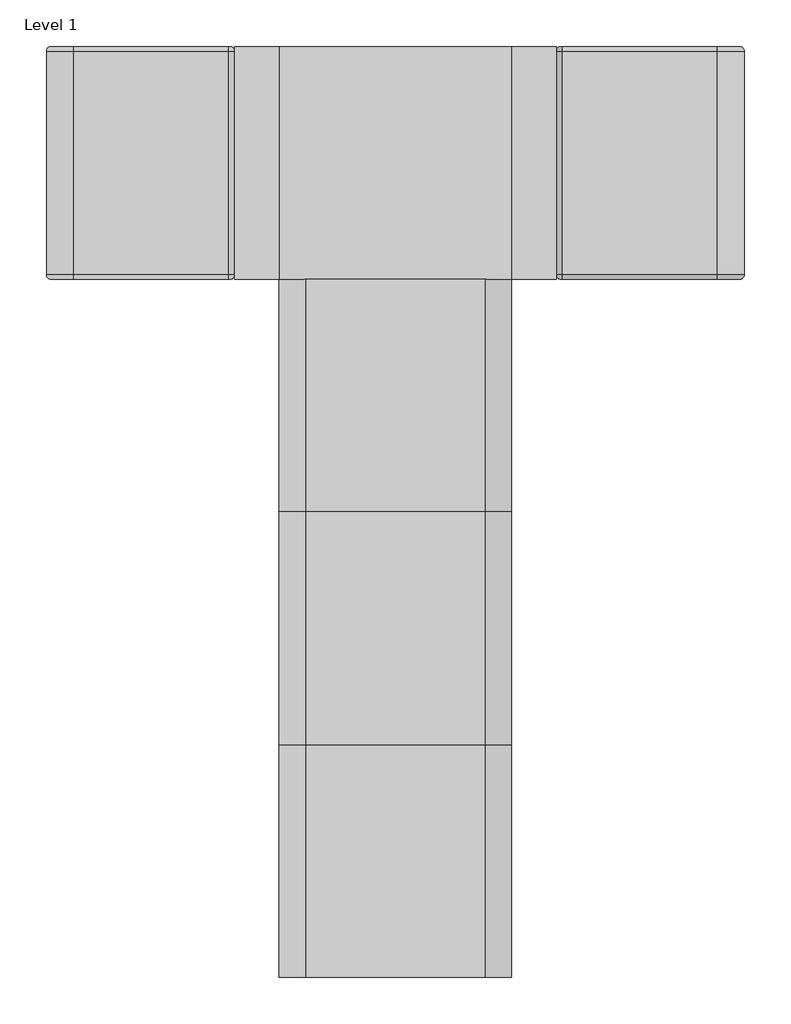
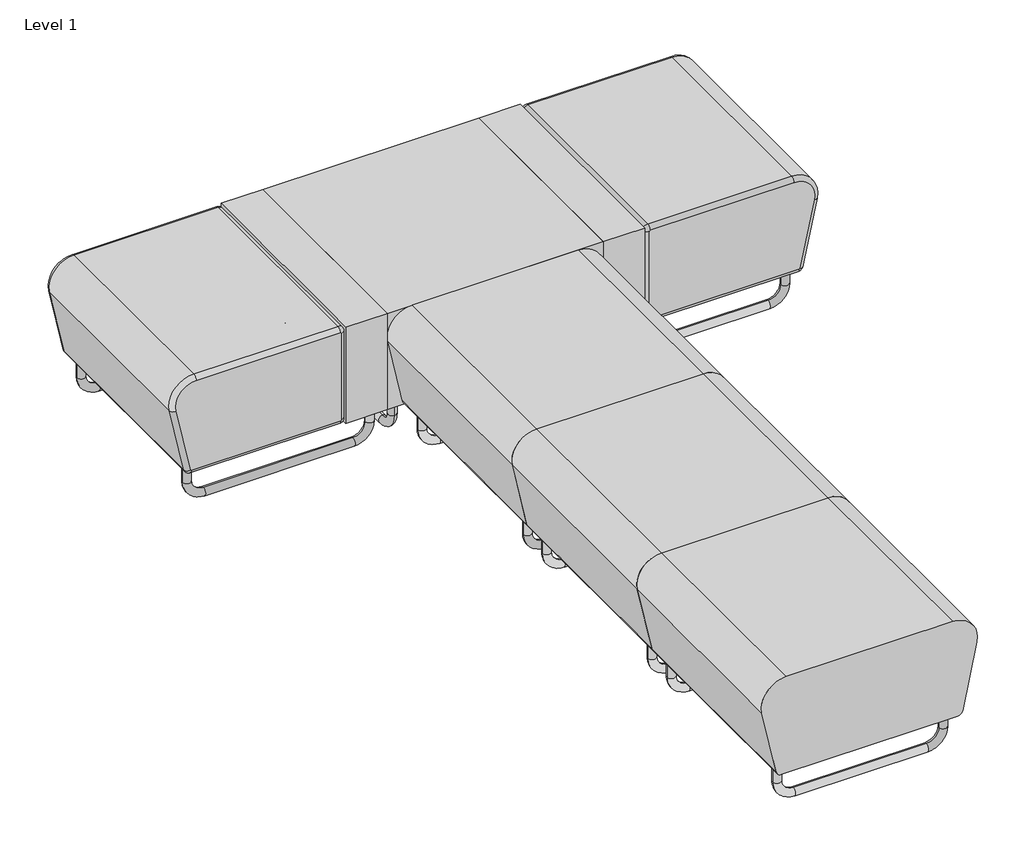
# One storey: 6 furniture elements.
"""IFC4 building model written with IfcOpenShell, lengths in millimetres."""

from ifc_helpers import new_model, si_unit, origin, place, context, project, spatial, transform, mapped, element, save
from components import lounge_seat_ki_hub_917b826c, lounge_seat_ki_hub_ottoman_ottoman_fce9da11, lounge_table_ki_hub_no_power_aac6d2b9

model = new_model("IFC4")

# Units and contexts
model_context = context("Model", 3, world=origin())
ifc_project = project(units=[si_unit("LENGTHUNIT", "METRE", prefix="MILLI")], contexts=[model_context])

# Site, building, storey
site = spatial("IfcSite", under=ifc_project)
building = spatial("IfcBuilding", under=site)
storey = spatial("IfcBuildingStorey", under=building, Name="Level 1", Elevation=0.0)

# Furniture
placement = place(None, origin())
lounge_seat_ki_hub_shape = lounge_seat_ki_hub_917b826c(model_context)
element("IfcFurniture", 1, ObjectType="Lounge-Seat-KI-Hub : 26\"W, Laminate, Non-Contrast, Backless", at=placement, inside=storey, context=model_context, shape_type="MappedRepresentation", body=[
    mapped(lounge_seat_ki_hub_shape, transform((3216.4727544, 3115.3808874, 0.0), x_axis=(0.0, 1.0, 0.0), y_axis=(-1.0, 0.0, 0.0), z_axis=(0.0, 0.0, 1.0))),
])
element("IfcFurniture", 2, ObjectType="Lounge-Seat-KI-Hub : 26\"W, Laminate, Non-Contrast, Backless", at=placement, inside=storey, context=model_context, shape_type="MappedRepresentation", body=[
    mapped(lounge_seat_ki_hub_shape, transform((1895.6727544, 3115.3808874, 0.0), x_axis=(0.0, -1.0, 0.0), y_axis=(1.0, 0.0, 0.0), z_axis=(0.0, 0.0, 1.0))),
])
lounge_seat_ki_hub_ottoman_ottoman_shape = lounge_seat_ki_hub_ottoman_ottoman_fce9da11(model_context)
element("IfcFurniture", 3, ObjectType="Lounge-Seat-KI-Hub-Ottoman : Ottoman", at=placement, inside=storey, context=model_context, shape_type="MappedRepresentation", body=[
    mapped(lounge_seat_ki_hub_ottoman_ottoman_shape, transform((2556.0727544, 2454.9808874, 0.0), x_axis=(0.0, 1.0, 0.0), y_axis=(-1.0, 0.0, 0.0), z_axis=(0.0, 0.0, 1.0))),
])
element("IfcFurniture", 4, ObjectType="Lounge-Seat-KI-Hub-Ottoman : Ottoman", at=placement, inside=storey, context=model_context, shape_type="MappedRepresentation", body=[
    mapped(lounge_seat_ki_hub_ottoman_ottoman_shape, transform((2556.0727544, 1794.5808874, 0.0), x_axis=(0.0, 1.0, 0.0), y_axis=(-1.0, 0.0, 0.0), z_axis=(0.0, 0.0, 1.0))),
])
element("IfcFurniture", 5, ObjectType="Lounge-Seat-KI-Hub-Ottoman : Ottoman", at=placement, inside=storey, context=model_context, shape_type="MappedRepresentation", body=[
    mapped(lounge_seat_ki_hub_ottoman_ottoman_shape, transform((2556.0727544, 1134.1808874, 0.0), x_axis=(0.0, 1.0, 0.0), y_axis=(-1.0, 0.0, 0.0), z_axis=(0.0, 0.0, 1.0))),
])
lounge_table_ki_hub_no_power_shape = lounge_table_ki_hub_no_power_aac6d2b9(model_context)
element("IfcFurniture", 6, ObjectType="Lounge-Table-KI-Hub : No Power", at=placement, inside=storey, context=model_context, shape_type="MappedRepresentation", body=[
    mapped(lounge_table_ki_hub_no_power_shape, transform((2556.0727544, 3115.3808874, 0.0), x_axis=(1.0, 0.0, 0.0), y_axis=(0.0, 1.0, 0.0), z_axis=(0.0, 0.0, 1.0))),
])

save(model, "model.ifc")
